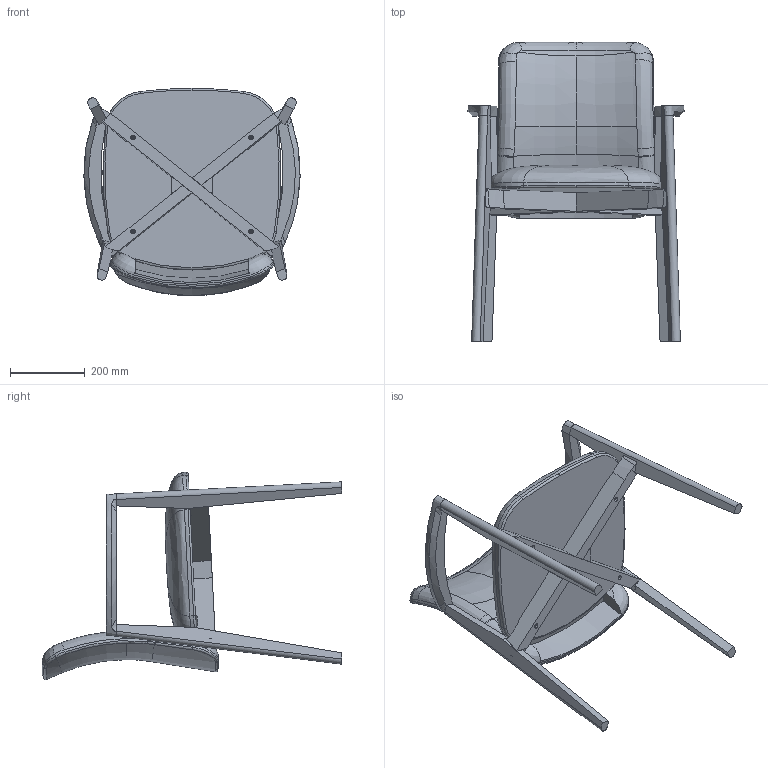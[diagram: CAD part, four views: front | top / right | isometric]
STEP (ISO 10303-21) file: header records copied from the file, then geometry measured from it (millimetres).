
FILE_DESCRIPTION (( 'STEP AP214' ), '1' );
FILE_NAME ('FG53411-00-00.STEP', '2023-06-26T08:44:22', ( '' ), ( '' ), 'SwSTEP 2.0', 'SolidWorks 2020', '' );
FILE_SCHEMA (( 'AUTOMOTIVE_DESIGN' ));
Length unit declared in the file: millimetre
Products named in the file (4): FS53411-01-00_Default<A macchina>; SD53401-01-00_IMBOTTITO; FG53411-00-00; SH53401-01-00_IMBOTTITO
Assembly tree (3 placements, depth 2):
  FG53411-00-00
    FS53411-01-00_Default<A macchina>
    SD53401-01-00_IMBOTTITO
    SH53401-01-00_IMBOTTITO
Bounding box: 576.88 x 799.83 x 553.36 mm (x, y, z)
Volume: 24510937.8 mm3; surface area: 1545817.9 mm2
Topology: 20 solids, 20 shells, 325 faces, 757 edges, 480 vertices
Faces by surface type: plane 137, cylinder 88, bspline 81, torus 17, cone 2
Entity records: 34916 total; most frequent: CARTESIAN_POINT 27847, ORIENTED_EDGE 1506, DIRECTION 1183, EDGE_CURVE 753, VERTEX_POINT 480, AXIS2_PLACEMENT_3D 429, EDGE_LOOP 347, ADVANCED_FACE 325
